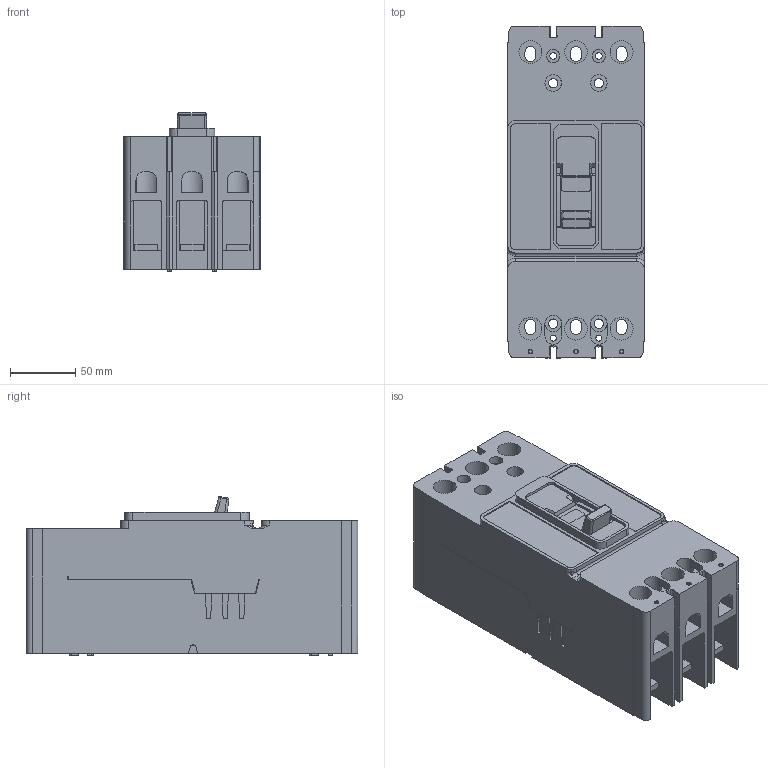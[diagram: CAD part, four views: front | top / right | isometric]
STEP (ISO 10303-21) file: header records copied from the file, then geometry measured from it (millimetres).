
FILE_DESCRIPTION((''),'2;1');
FILE_NAME('C:\temp\JDC3_.stp','2015-10-23T10:39:16',('E0021360'),(''),'Autodesk Inventor 2013','Autodesk Inventor 2013','');
FILE_SCHEMA(('AUTOMOTIVE_DESIGN { 1 0 10303 214 1 1 1 1 }'));
Length unit declared in the file: inch
Products named in the file (1): JDC3_
Bounding box: 104.78 x 254 x 121.44 mm (x, y, z)
Volume: 2180011.4 mm3; surface area: 228633.2 mm2
Topology: 1 solids, 7 shells, 895 faces, 2473 edges, 1634 vertices
Faces by surface type: plane 688, cylinder 193, cone 6, bspline 4, torus 4
Full cylindrical faces by diameter (mm): 2.794 x3, 3.556 x3, 4.572 x2, 5.08 x2, 5.156 x3, 5.309 x4, 5.563 x4, 6.35 x7, 6.756 x3, 7.137 x4, 7.925 x6, 8.077 x2, 10.033 x2, 10.16 x3, 12.7 x6, 17.475 x9, 21.59 x3
Entity records: 28990 total; most frequent: CARTESIAN_POINT 5301, ORIENTED_EDGE 4726, DIRECTION 4574, EDGE_CURVE 2363, VECTOR 1840, LINE 1840, VERTEX_POINT 1596, AXIS2_PLACEMENT_3D 1367
